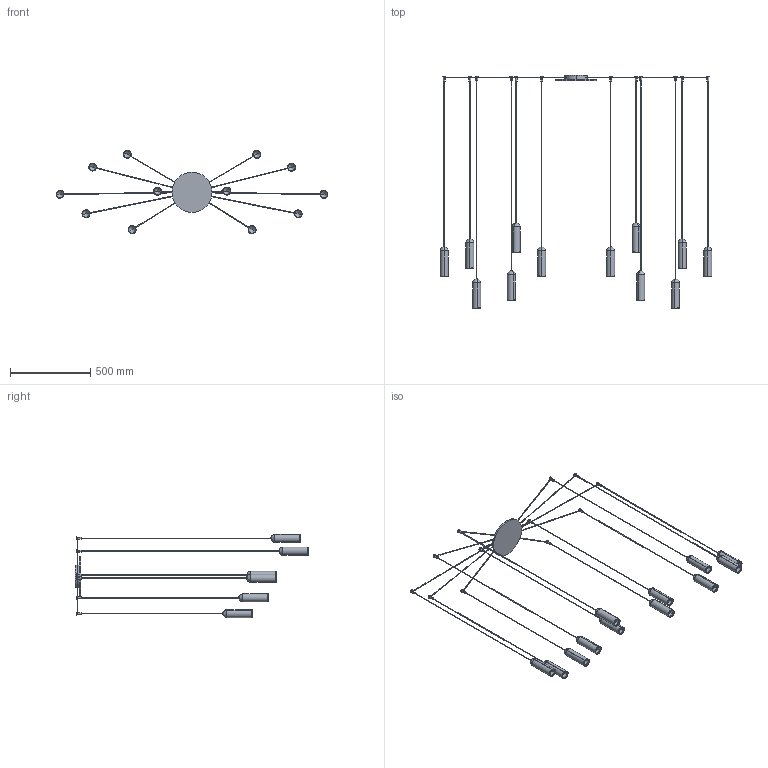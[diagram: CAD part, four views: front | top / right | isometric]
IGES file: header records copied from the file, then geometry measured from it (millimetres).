
Start section: SolidWorks IGES file using analytic representation for surfaces
Global section: file name: Y:\eforma\TECNICO\SOLIDWORKS\E-FORMA\09-LAMPADE\NANUM\02 parts\NANB4-00-NANUM_12_B sospensione.IGS; native system: SolidWorks 2022; preprocessor: SolidWorks 2022; author: eforma.tech; date: 250505.164210; units: millimetre
Bounding box: 1695.99 x 1454.5 x 519.99 mm (x, y, z)
Volume: 1974922.2 mm3; surface area: 1096242.2 mm2
Topology: 37 solids, 37 shells, 460 faces, 902 edges, 517 vertices
Faces by surface type: revolution 369, plane 91
